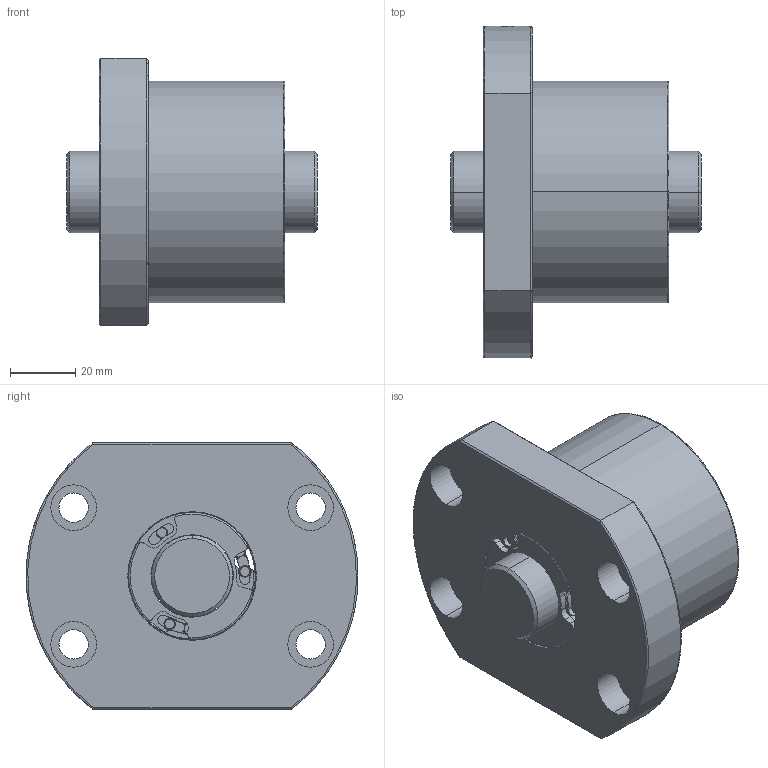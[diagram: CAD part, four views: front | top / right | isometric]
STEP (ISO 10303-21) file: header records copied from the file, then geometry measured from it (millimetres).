
FILE_DESCRIPTION (( 'STEP AP203' ), '1' );
FILE_NAME ('SFVSR02510C1D-C.STEP', '2020-06-17T05:10:06', ( '' ), ( '' ), 'SwSTEP 2.0', 'SolidWorks 2013', '' );
FILE_SCHEMA (( 'CONFIG_CONTROL_DESIGN' ));
Length unit declared in the file: millimetre
Products named in the file (1): SFVSR02510C1D-C
Bounding box: 77 x 101.94 x 82 mm (x, y, z)
Volume: 259198.6 mm3; surface area: 43924.8 mm2
Topology: 2 solids, 2 shells, 247 faces, 594 edges, 380 vertices
Faces by surface type: cylinder 136, plane 81, cone 16, bspline 14
Entity records: 7902 total; most frequent: CARTESIAN_POINT 1853, DIRECTION 1380, ORIENTED_EDGE 1188, EDGE_CURVE 594, AXIS2_PLACEMENT_3D 588, VERTEX_POINT 380, CIRCLE 354, EDGE_LOOP 286
